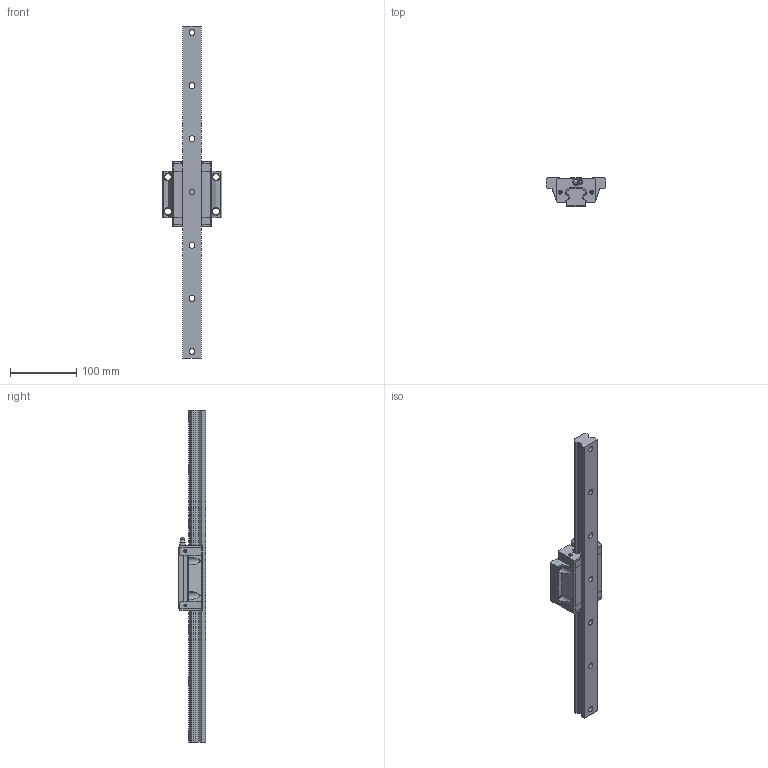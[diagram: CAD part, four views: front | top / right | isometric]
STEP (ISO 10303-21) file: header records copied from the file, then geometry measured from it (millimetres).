
FILE_DESCRIPTION(/* description */ ('STEP AP203'),/* implementation_level */ '2;1');
FILE_NAME(/* name */ 'D:\FOLDER Tomasz Michałek\pliki z pulpitu\Katalogi inne\Technika liniowa\NATECH\Modele 3D\NATECH linear block 3D drawing\NGW\NGW30CC\NGW30CC1R500.stp',/* time_stamp */ '2021-01-21T17:00:23+01:00',/* author */ ('dnia_tomasz_tm'),/* organization */ ('IT'),/* preprocessor_version */ 'ST-DEVELOPER v16.13',/* originating_system */ 'Autodesk Inventor 2018',/* authorisation */ '');
FILE_SCHEMA (('AUTOMOTIVE_DESIGN { 1 0 10303 214 3 1 1 }'));
Length unit declared in the file: millimetre
Products named in the file (3): NGW30CC1R500ZACI; GHW30CC1R500ZACI_1_GHW30CC; GHW30CC1R500ZACI_2_GHW30CC
Assembly tree (2 placements, depth 2):
  NGW30CC1R500ZACI
    GHW30CC1R500ZACI_1_GHW30CC
    GHW30CC1R500ZACI_2_GHW30CC
Bounding box: 90 x 42 x 500 mm (x, y, z)
Volume: 496333.1 mm3; surface area: 108791.9 mm2
Topology: 7 solids, 7 shells, 426 faces, 1110 edges, 731 vertices
Faces by surface type: plane 324, cylinder 68, cone 19, torus 9, sphere 5, bspline 1
Full cylindrical faces by diameter (mm): 0.575 x4, 4.26 x6, 4.5 x1, 4.788 x4, 5.985 x4, 8 x1, 9 x7, 10 x4, 12 x4, 14 x7
Entity records: 12772 total; most frequent: CARTESIAN_POINT 2308, ORIENTED_EDGE 2102, DIRECTION 2096, EDGE_CURVE 1051, LINE 792, VECTOR 792, VERTEX_POINT 726, AXIS2_PLACEMENT_3D 652
